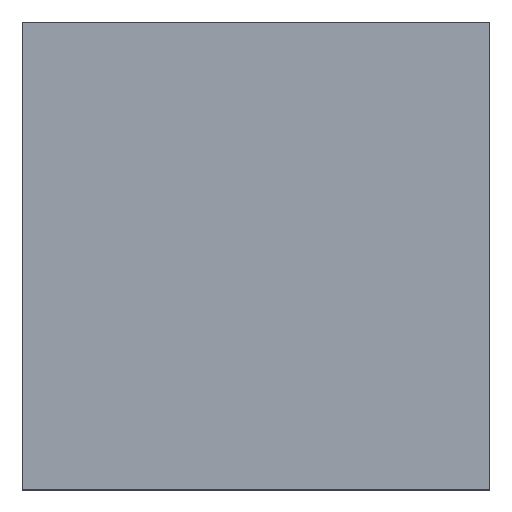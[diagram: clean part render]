
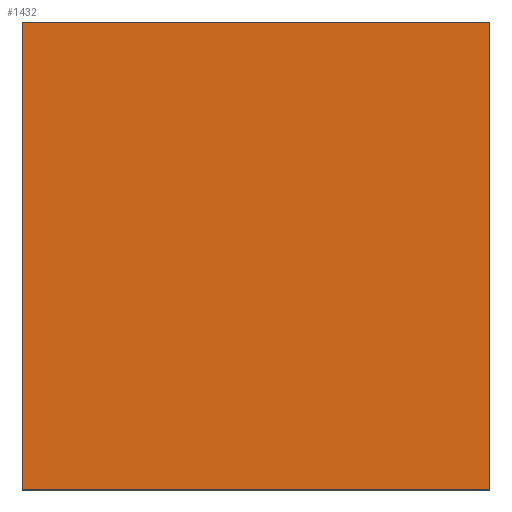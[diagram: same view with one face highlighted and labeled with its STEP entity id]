
A CAD part, top view. The second image highlights one B-rep face of the part: STEP entity #1432.
In plain terms, the highlighted planar face has unit normal (0, 0, 1).
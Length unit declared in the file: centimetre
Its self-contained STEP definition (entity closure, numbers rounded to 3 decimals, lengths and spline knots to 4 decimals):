
#1 = EDGE_CURVE ( 'NONE', #1219, #1103, #1549, .T. ) ;
#100 = DIRECTION ( 'NONE',  ( 0., 1., 0. ) ) ;
#147 = VECTOR ( 'NONE', #100, 100. ) ;
#170 = VECTOR ( 'NONE', #1503, 100. ) ;
#200 = VERTEX_POINT ( 'NONE', #1268 ) ;
#216 = DIRECTION ( 'NONE',  ( 0., -1., 0. ) ) ;
#232 = EDGE_CURVE ( 'NONE', #1103, #577, #1163, .T. ) ;
#253 = PLANE ( 'NONE',  #464 ) ;
#295 = CARTESIAN_POINT ( 'NONE',  ( 1000., 0., 1000. ) ) ;
#345 = VECTOR ( 'NONE', #1169, 100. ) ;
#369 = CARTESIAN_POINT ( 'NONE',  ( 0., 1000., 1000. ) ) ;
#464 = AXIS2_PLACEMENT_3D ( 'NONE', #1179, #1437, #1553 ) ;
#466 = LINE ( 'NONE', #369, #170 ) ;
#489 = CARTESIAN_POINT ( 'NONE',  ( 0., 1000., 1000. ) ) ;
#577 = VERTEX_POINT ( 'NONE', #295 ) ;
#681 = VECTOR ( 'NONE', #216, 100. ) ;
#751 = CARTESIAN_POINT ( 'NONE',  ( 1000., 1000., 1000. ) ) ;
#781 = CARTESIAN_POINT ( 'NONE',  ( 0., 0., 1000. ) ) ;
#1031 = EDGE_CURVE ( 'NONE', #200, #1219, #466, .T. ) ;
#1077 = EDGE_CURVE ( 'NONE', #577, #200, #1253, .T. ) ;
#1103 = VERTEX_POINT ( 'NONE', #781 ) ;
#1142 = ORIENTED_EDGE ( 'NONE', *, *, #1, .T. ) ;
#1150 = CARTESIAN_POINT ( 'NONE',  ( 0., 1000., 1000. ) ) ;
#1163 = LINE ( 'NONE', #1671, #345 ) ;
#1169 = DIRECTION ( 'NONE',  ( 1., 0., 0. ) ) ;
#1179 = CARTESIAN_POINT ( 'NONE',  ( 0., 0., 1000. ) ) ;
#1219 = VERTEX_POINT ( 'NONE', #1150 ) ;
#1253 = LINE ( 'NONE', #751, #147 ) ;
#1268 = CARTESIAN_POINT ( 'NONE',  ( 1000., 1000., 1000. ) ) ;
#1284 = ORIENTED_EDGE ( 'NONE', *, *, #1031, .T. ) ;
#1348 = ORIENTED_EDGE ( 'NONE', *, *, #1077, .T. ) ;
#1370 = EDGE_LOOP ( 'NONE', ( #1142, #1670, #1348, #1284 ) ) ;
#1415 = FACE_OUTER_BOUND ( 'NONE', #1370, .T. ) ;
#1432 = ADVANCED_FACE ( 'NONE', ( #1415 ), #253, .T. ) ;
#1437 = DIRECTION ( 'NONE',  ( 0., 0., 1. ) ) ;
#1503 = DIRECTION ( 'NONE',  ( -1., 0., 0. ) ) ;
#1549 = LINE ( 'NONE', #489, #681 ) ;
#1553 = DIRECTION ( 'NONE',  ( 1., 0., 0. ) ) ;
#1670 = ORIENTED_EDGE ( 'NONE', *, *, #232, .T. ) ;
#1671 = CARTESIAN_POINT ( 'NONE',  ( 0., 0., 1000. ) ) ;
